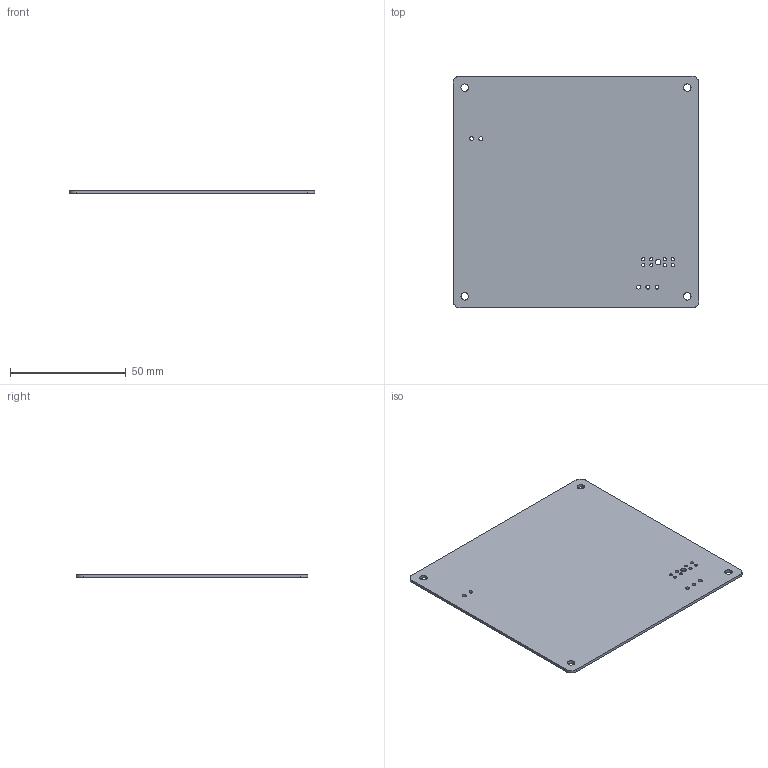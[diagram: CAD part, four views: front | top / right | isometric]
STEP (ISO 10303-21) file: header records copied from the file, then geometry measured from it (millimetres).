
FILE_DESCRIPTION(('Open CASCADE Model'),'2;1');
FILE_NAME('Open CASCADE Shape Model','2026-09-27T12:05:16',('Author'),( 'Open CASCADE'),'Open CASCADE STEP processor 8.0','Open CASCADE 8.0' ,'Unknown');
FILE_SCHEMA(('AUTOMOTIVE_DESIGN { 1 0 10303 214 1 1 1 1 }'));
Length unit declared in the file: millimetre
Products named in the file (1): Open CASCADE STEP translator 8.0 3
Bounding box: 106 x 100 x 1.2 mm (x, y, z)
Volume: 12637.8 mm3; surface area: 21683.5 mm2
Topology: 1 solids, 1 shells, 28 faces, 78 edges, 52 vertices
Faces by surface type: bspline 28
Entity records: 2430 total; most frequent: CARTESIAN_POINT 1429, ORIENTED_EDGE 156, PCURVE 156, DEFINITIONAL_REPRESENTATION 156, B_SPLINE_CURVE_WITH_KNOTS 146, EDGE_CURVE 78, FACE_BOUND 64, EDGE_LOOP 64
